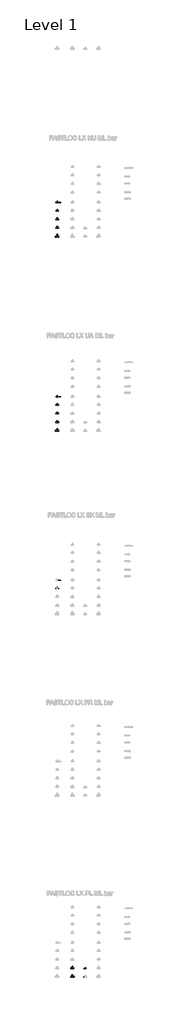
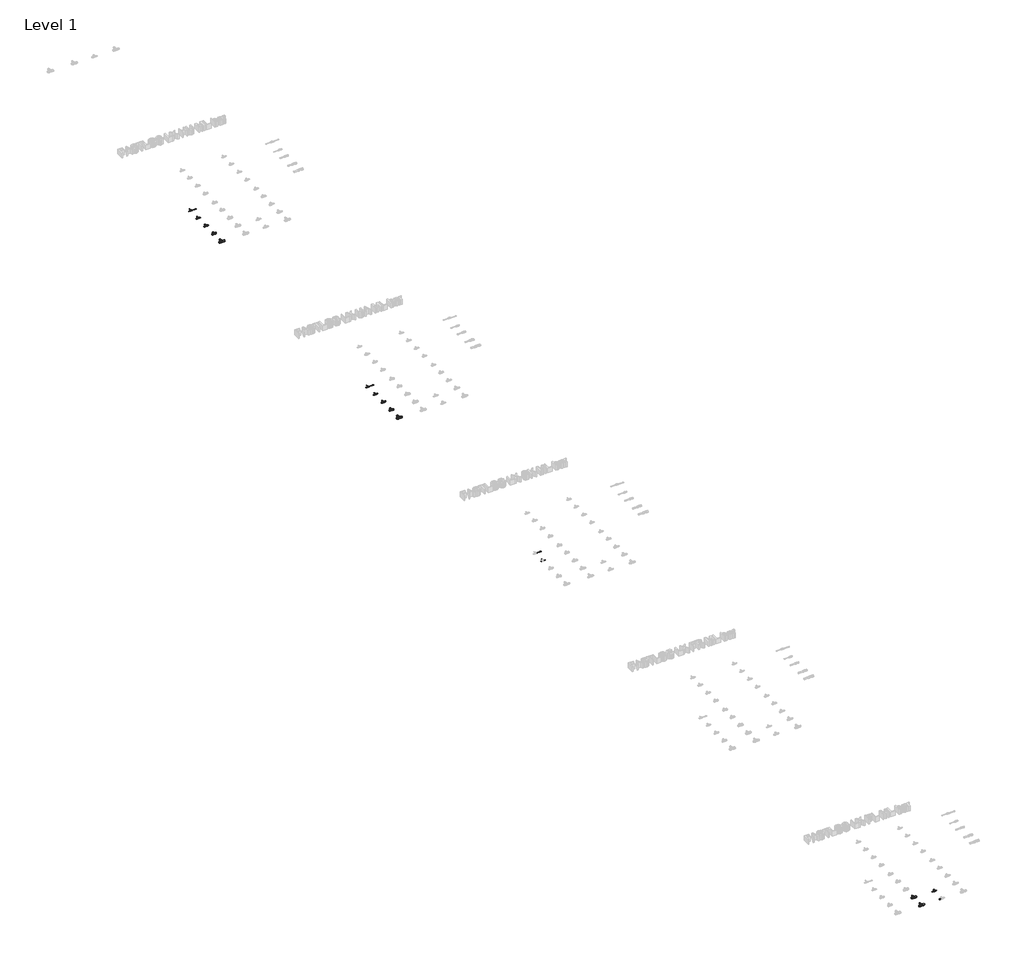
# One storey, part 2 of 78: 42 pipe segments, 13 pipe fittings.
"""IFC4 building model written with IfcOpenShell, lengths in millimetres."""

from ifc_helpers import new_model, si_unit, point, frame, frame_2d, origin, place, context, project, spatial, circle_curve, trimmed, segment, composite_curve, outline, extrude, transform, mapped, element, save
from components import pipe_fitting_d1609a9c, pipe_fitting_bded02bd, pipe_fitting_da5243fc, pipe_fitting_29102c59, pipe_fitting_564e9d2e, pipe_fitting_15165f03, pipe_fitting_7e3be5b8, pipe_fitting_19df1a9e

model = new_model("IFC4")

# Units and contexts
model_context = context("Model", 3, world=origin())
ifc_project = project(units=[si_unit("LENGTHUNIT", "METRE", prefix="MILLI")], contexts=[model_context])

# Site, building, storey
site = spatial("IfcSite", under=ifc_project)
building = spatial("IfcBuilding", under=site)
storey = spatial("IfcBuildingStorey", under=building, Name="Level 1", Elevation=0.0)

# Pipe fittings
placement = place(None, origin())
pipe_fitting_shape = pipe_fitting_d1609a9c(model_context)
element("IfcPipeFitting", 1, ObjectType="FASTLOC_T-piece_LX : FSL T-Piece LX HU", at=placement, inside=storey, context=model_context, shape_type="MappedRepresentation", body=[
    mapped(pipe_fitting_shape, transform((-273.2501928, -2880.2405791, 0.0), x_axis=(1.0, 0.0, 0.0), y_axis=(0.0, 1.0, 0.0), z_axis=(0.0, 0.0, 1.0))),
])
element("IfcPipeFitting", 2, ObjectType="FASTLOC_T-piece_LX : FSL T-Piece LX UA", at=placement, inside=storey, context=model_context, shape_type="MappedRepresentation", body=[
    mapped(pipe_fitting_shape, transform((-273.2501928, -11880.2405791, 0.0), x_axis=(1.0, 0.0, 0.0), y_axis=(0.0, 1.0, 0.0), z_axis=(0.0, 0.0, 1.0))),
])
pipe_fitting_2_shape = pipe_fitting_bded02bd(model_context)
element("IfcPipeFitting", 3, ObjectType="FASTLOC_T-piece_LX : FSL T-Piece LX HU", at=placement, inside=storey, context=model_context, shape_type="MappedRepresentation", body=[
    mapped(pipe_fitting_2_shape, transform((-273.2501928, -3260.2405791, 0.0), x_axis=(1.0, 0.0, 0.0), y_axis=(0.0, 1.0, 0.0), z_axis=(0.0, 0.0, 1.0))),
])
pipe_fitting_3_shape = pipe_fitting_da5243fc(model_context)
element("IfcPipeFitting", 4, ObjectType="FASTLOC_T-piece_LX : FSL T-Piece LX HU", at=placement, inside=storey, context=model_context, shape_type="MappedRepresentation", body=[
    mapped(pipe_fitting_3_shape, transform((-273.2501928, -3660.2405791, 0.0), x_axis=(1.0, 0.0, 0.0), y_axis=(0.0, 1.0, 0.0), z_axis=(0.0, 0.0, 1.0))),
])
pipe_fitting_4_shape = pipe_fitting_29102c59(model_context)
element("IfcPipeFitting", 5, ObjectType="FASTLOC_T-piece_LX : FSL T-Piece LX HU", at=placement, inside=storey, context=model_context, shape_type="MappedRepresentation", body=[
    mapped(pipe_fitting_4_shape, transform((-273.2501928, -4060.2405791, 0.0), x_axis=(1.0, 0.0, 0.0), y_axis=(0.0, 1.0, 0.0), z_axis=(0.0, 0.0, 1.0))),
])
pipe_fitting_5_shape = pipe_fitting_564e9d2e(model_context)
element("IfcPipeFitting", 6, ObjectType="FASTLOC_T-piece_LX : FSL T-Piece LX HU", at=placement, inside=storey, context=model_context, shape_type="MappedRepresentation", body=[
    mapped(pipe_fitting_5_shape, transform((-273.2501928, -4460.2405791, 0.0), x_axis=(1.0, 0.0, 0.0), y_axis=(0.0, 1.0, 0.0), z_axis=(0.0, 0.0, 1.0))),
])
element("IfcPipeFitting", 7, ObjectType="FASTLOC_T-piece_LX : FSL T-Piece LX UA", at=placement, inside=storey, context=model_context, shape_type="MappedRepresentation", body=[
    mapped(pipe_fitting_2_shape, transform((-273.2501928, -12260.2405791, 0.0), x_axis=(1.0, 0.0, 0.0), y_axis=(0.0, 1.0, 0.0), z_axis=(0.0, 0.0, 1.0))),
])
element("IfcPipeFitting", 8, ObjectType="FASTLOC_T-piece_LX : FSL T-Piece LX UA", at=placement, inside=storey, context=model_context, shape_type="MappedRepresentation", body=[
    mapped(pipe_fitting_3_shape, transform((-273.2501928, -12660.2405791, 0.0), x_axis=(1.0, 0.0, 0.0), y_axis=(0.0, 1.0, 0.0), z_axis=(0.0, 0.0, 1.0))),
])
element("IfcPipeFitting", 9, ObjectType="FASTLOC_T-piece_LX : FSL T-Piece LX UA", at=placement, inside=storey, context=model_context, shape_type="MappedRepresentation", body=[
    mapped(pipe_fitting_4_shape, transform((-273.2501928, -13060.2405791, 0.0), x_axis=(1.0, 0.0, 0.0), y_axis=(0.0, 1.0, 0.0), z_axis=(0.0, 0.0, 1.0))),
])
element("IfcPipeFitting", 10, ObjectType="FASTLOC_T-piece_LX : FSL T-Piece LX UA", at=placement, inside=storey, context=model_context, shape_type="MappedRepresentation", body=[
    mapped(pipe_fitting_5_shape, transform((-273.2501928, -13460.2405791, 0.0), x_axis=(1.0, 0.0, 0.0), y_axis=(0.0, 1.0, 0.0), z_axis=(0.0, 0.0, 1.0))),
])
pipe_fitting_6_shape = pipe_fitting_15165f03(model_context)
element("IfcPipeFitting", 11, ObjectType="FASTLOC_T-piece_LX : FSL T-Piece LX PL", at=placement, inside=storey, context=model_context, shape_type="MappedRepresentation", body=[
    mapped(pipe_fitting_6_shape, transform((426.7498072, -38360.2405791, 0.0), x_axis=(1.0, 0.0, 0.0), y_axis=(0.0, 1.0, 0.0), z_axis=(0.0, 0.0, 1.0))),
])
pipe_fitting_7_shape = pipe_fitting_7e3be5b8(model_context)
element("IfcPipeFitting", 12, ObjectType="FASTLOC_T-piece_LX : FSL T-Piece LX PL", at=placement, inside=storey, context=model_context, shape_type="MappedRepresentation", body=[
    mapped(pipe_fitting_7_shape, transform((426.7498072, -38760.2405791, 0.0), x_axis=(1.0, 0.0, 0.0), y_axis=(0.0, 1.0, 0.0), z_axis=(0.0, 0.0, 1.0))),
])
pipe_fitting_8_shape = pipe_fitting_19df1a9e(model_context)
element("IfcPipeFitting", 13, ObjectType="FASTLOC_T-piece_LX : FSL T-Piece LX PL", at=placement, inside=storey, context=model_context, shape_type="MappedRepresentation", body=[
    mapped(pipe_fitting_8_shape, transform((1026.7498072, -38380.2405791, 0.0), x_axis=(1.0, 0.0, 0.0), y_axis=(0.0, 1.0, 0.0), z_axis=(0.0, 0.0, 1.0))),
])

# Pipe segments
element("IfcPipeSegment", 14, ObjectType="FASTLOC LX ML HU bar", at=placement, inside=storey, context=model_context, shape_type="SweptSolid", body=[
    extrude(outline(composite_curve([segment(trimmed(circle_curve(frame_2d((-2880.2405791, 0.0)), 8.0), [point((-2872.2405791, 0.0))], [point((-2880.2405791, -8.0))], False, "CARTESIAN"), True, "CONTINUOUS"), segment(trimmed(circle_curve(frame_2d((-2880.2405791, 0.0)), 8.0), [point((-2880.2405791, -8.0))], [point((-2888.2405791, 0.0))], False, "CARTESIAN"), True, "CONTINUOUS"), segment(trimmed(circle_curve(frame_2d((-2880.2405791, 0.0)), 8.0), [point((-2888.2405791, 0.0))], [point((-2880.2405791, 8.0))], False, "CARTESIAN"), True, "CONTINUOUS"), segment(trimmed(circle_curve(frame_2d((-2880.2405791, 0.0)), 8.0), [point((-2880.2405791, 8.0))], [point((-2872.2405791, 0.0))], False, "CARTESIAN"), True, "CONTINUOUS")], self_intersect=False)), frame((-335.2501928, 0.0, 0.0), z_axis=(1.0, 0.0, 0.0), x_axis=(0.0, 1.0, 0.0)), (0.0, 0.0, 1.0), 47.0),
])
element("IfcPipeSegment", 15, ObjectType="FASTLOC LX ML HU bar", at=placement, inside=storey, context=model_context, shape_type="SweptSolid", body=[
    extrude(outline(composite_curve([segment(trimmed(circle_curve(frame_2d((0.0, -273.2501928)), 8.0), [point((0.0, -265.2501928))], [point((8.0, -273.2501928))], False, "CARTESIAN"), True, "CONTINUOUS"), segment(trimmed(circle_curve(frame_2d((0.0, -273.2501928)), 8.0), [point((8.0, -273.2501928))], [point((0.0, -281.2501928))], False, "CARTESIAN"), True, "CONTINUOUS"), segment(trimmed(circle_curve(frame_2d((0.0, -273.2501928)), 8.0), [point((0.0, -281.2501928))], [point((-8.0, -273.2501928))], False, "CARTESIAN"), True, "CONTINUOUS"), segment(trimmed(circle_curve(frame_2d((0.0, -273.2501928)), 8.0), [point((-8.0, -273.2501928))], [point((0.0, -265.2501928))], False, "CARTESIAN"), True, "CONTINUOUS")], self_intersect=False)), frame((0.0, -2858.1405791, 0.0), z_axis=(0.0, 1.0, 0.0), x_axis=(0.0, 0.0, 1.0)), (0.0, 0.0, 1.0), 50.2),
])
element("IfcPipeSegment", 16, ObjectType="FASTLOC LX ML HU bar", at=placement, inside=storey, context=model_context, shape_type="SweptSolid", body=[
    extrude(outline(composite_curve([segment(trimmed(circle_curve(frame_2d((-3260.2405791, 0.0)), 8.0), [point((-3268.2405791, 0.0))], [point((-3260.2405791, 8.0))], False, "CARTESIAN"), True, "CONTINUOUS"), segment(trimmed(circle_curve(frame_2d((-3260.2405791, 0.0)), 8.0), [point((-3260.2405791, 8.0))], [point((-3252.2405791, 0.0))], False, "CARTESIAN"), True, "CONTINUOUS"), segment(trimmed(circle_curve(frame_2d((-3260.2405791, 0.0)), 8.0), [point((-3252.2405791, 0.0))], [point((-3260.2405791, -8.0))], False, "CARTESIAN"), True, "CONTINUOUS"), segment(trimmed(circle_curve(frame_2d((-3260.2405791, 0.0)), 8.0), [point((-3260.2405791, -8.0))], [point((-3268.2405791, 0.0))], False, "CARTESIAN"), True, "CONTINUOUS")], self_intersect=False)), frame((-256.0501928, 0.0, 0.0), z_axis=(1.0, 0.0, 0.0), x_axis=(0.0, 1.0, 0.0)), (0.0, 0.0, 1.0), 44.8),
])
element("IfcPipeSegment", 17, ObjectType="FASTLOC LX ML HU bar", at=placement, inside=storey, context=model_context, shape_type="SweptSolid", body=[
    extrude(outline(composite_curve([segment(trimmed(circle_curve(frame_2d((-3260.2405791, 0.0)), 8.0), [point((-3252.2405791, 0.0))], [point((-3260.2405791, -8.0))], False, "CARTESIAN"), True, "CONTINUOUS"), segment(trimmed(circle_curve(frame_2d((-3260.2405791, 0.0)), 8.0), [point((-3260.2405791, -8.0))], [point((-3268.2405791, 0.0))], False, "CARTESIAN"), True, "CONTINUOUS"), segment(trimmed(circle_curve(frame_2d((-3260.2405791, 0.0)), 8.0), [point((-3268.2405791, 0.0))], [point((-3260.2405791, 8.0))], False, "CARTESIAN"), True, "CONTINUOUS"), segment(trimmed(circle_curve(frame_2d((-3260.2405791, 0.0)), 8.0), [point((-3260.2405791, 8.0))], [point((-3252.2405791, 0.0))], False, "CARTESIAN"), True, "CONTINUOUS")], self_intersect=False)), frame((-335.2501928, 0.0, 0.0), z_axis=(1.0, 0.0, 0.0), x_axis=(0.0, 1.0, 0.0)), (0.0, 0.0, 1.0), 44.8),
])
element("IfcPipeSegment", 18, ObjectType="FASTLOC LX ML HU bar", at=placement, inside=storey, context=model_context, shape_type="SweptSolid", body=[
    extrude(outline(composite_curve([segment(trimmed(circle_curve(frame_2d((0.0, -273.2501928)), 8.0), [point((0.0, -265.2501928))], [point((8.0, -273.2501928))], False, "CARTESIAN"), True, "CONTINUOUS"), segment(trimmed(circle_curve(frame_2d((0.0, -273.2501928)), 8.0), [point((8.0, -273.2501928))], [point((0.0, -281.2501928))], False, "CARTESIAN"), True, "CONTINUOUS"), segment(trimmed(circle_curve(frame_2d((0.0, -273.2501928)), 8.0), [point((0.0, -281.2501928))], [point((-8.0, -273.2501928))], False, "CARTESIAN"), True, "CONTINUOUS"), segment(trimmed(circle_curve(frame_2d((0.0, -273.2501928)), 8.0), [point((-8.0, -273.2501928))], [point((0.0, -265.2501928))], False, "CARTESIAN"), True, "CONTINUOUS")], self_intersect=False)), frame((0.0, -3233.8405791, 0.0), z_axis=(0.0, 1.0, 0.0), x_axis=(0.0, 0.0, 1.0)), (0.0, 0.0, 1.0), 45.9),
])
element("IfcPipeSegment", 19, ObjectType="FASTLOC LX ML HU bar", at=placement, inside=storey, context=model_context, shape_type="SweptSolid", body=[
    extrude(outline(composite_curve([segment(trimmed(circle_curve(frame_2d((-3660.2405791, 0.0)), 12.5), [point((-3672.7405791, 0.0))], [point((-3660.2405791, 12.5))], False, "CARTESIAN"), True, "CONTINUOUS"), segment(trimmed(circle_curve(frame_2d((-3660.2405791, 0.0)), 12.5), [point((-3660.2405791, 12.5))], [point((-3647.7405791, 0.0))], False, "CARTESIAN"), True, "CONTINUOUS"), segment(trimmed(circle_curve(frame_2d((-3660.2405791, 0.0)), 12.5), [point((-3647.7405791, 0.0))], [point((-3660.2405791, -12.5))], False, "CARTESIAN"), True, "CONTINUOUS"), segment(trimmed(circle_curve(frame_2d((-3660.2405791, 0.0)), 12.5), [point((-3660.2405791, -12.5))], [point((-3672.7405791, 0.0))], False, "CARTESIAN"), True, "CONTINUOUS")], self_intersect=False)), frame((-253.3501928, 0.0, 0.0), z_axis=(1.0, 0.0, 0.0), x_axis=(0.0, 1.0, 0.0)), (0.0, 0.0, 1.0), 42.1),
])
element("IfcPipeSegment", 20, ObjectType="FASTLOC LX ML HU bar", at=placement, inside=storey, context=model_context, shape_type="SweptSolid", body=[
    extrude(outline(composite_curve([segment(trimmed(circle_curve(frame_2d((-3660.2405791, 0.0)), 12.5), [point((-3647.7405791, 0.0))], [point((-3660.2405791, -12.5))], False, "CARTESIAN"), True, "CONTINUOUS"), segment(trimmed(circle_curve(frame_2d((-3660.2405791, 0.0)), 12.5), [point((-3660.2405791, -12.5))], [point((-3672.7405791, 0.0))], False, "CARTESIAN"), True, "CONTINUOUS"), segment(trimmed(circle_curve(frame_2d((-3660.2405791, 0.0)), 12.5), [point((-3672.7405791, 0.0))], [point((-3660.2405791, 12.5))], False, "CARTESIAN"), True, "CONTINUOUS"), segment(trimmed(circle_curve(frame_2d((-3660.2405791, 0.0)), 12.5), [point((-3660.2405791, 12.5))], [point((-3647.7405791, 0.0))], False, "CARTESIAN"), True, "CONTINUOUS")], self_intersect=False)), frame((-335.2501928, 0.0, 0.0), z_axis=(1.0, 0.0, 0.0), x_axis=(0.0, 1.0, 0.0)), (0.0, 0.0, 1.0), 42.1),
])
element("IfcPipeSegment", 21, ObjectType="FASTLOC LX ML HU bar", at=placement, inside=storey, context=model_context, shape_type="SweptSolid", body=[
    extrude(outline(composite_curve([segment(trimmed(circle_curve(frame_2d((0.0, -273.2501928)), 12.5), [point((0.0, -260.7501928))], [point((12.5, -273.2501928))], False, "CARTESIAN"), True, "CONTINUOUS"), segment(trimmed(circle_curve(frame_2d((0.0, -273.2501928)), 12.5), [point((12.5, -273.2501928))], [point((0.0, -285.7501928))], False, "CARTESIAN"), True, "CONTINUOUS"), segment(trimmed(circle_curve(frame_2d((0.0, -273.2501928)), 12.5), [point((0.0, -285.7501928))], [point((-12.5, -273.2501928))], False, "CARTESIAN"), True, "CONTINUOUS"), segment(trimmed(circle_curve(frame_2d((0.0, -273.2501928)), 12.5), [point((-12.5, -273.2501928))], [point((0.0, -260.7501928))], False, "CARTESIAN"), True, "CONTINUOUS")], self_intersect=False)), frame((0.0, -3630.7405791, 0.0), z_axis=(0.0, 1.0, 0.0), x_axis=(0.0, 0.0, 1.0)), (0.0, 0.0, 1.0), 42.8),
])
element("IfcPipeSegment", 22, ObjectType="FASTLOC LX ML HU bar", at=placement, inside=storey, context=model_context, shape_type="SweptSolid", body=[
    extrude(outline(composite_curve([segment(trimmed(circle_curve(frame_2d((-4060.2405791, 0.0)), 16.0), [point((-4076.2405791, 0.0))], [point((-4060.2405791, 16.0))], False, "CARTESIAN"), True, "CONTINUOUS"), segment(trimmed(circle_curve(frame_2d((-4060.2405791, 0.0)), 16.0), [point((-4060.2405791, 16.0))], [point((-4044.2405791, 0.0))], False, "CARTESIAN"), True, "CONTINUOUS"), segment(trimmed(circle_curve(frame_2d((-4060.2405791, 0.0)), 16.0), [point((-4044.2405791, 0.0))], [point((-4060.2405791, -16.0))], False, "CARTESIAN"), True, "CONTINUOUS"), segment(trimmed(circle_curve(frame_2d((-4060.2405791, 0.0)), 16.0), [point((-4060.2405791, -16.0))], [point((-4076.2405791, 0.0))], False, "CARTESIAN"), True, "CONTINUOUS")], self_intersect=False)), frame((-248.4501928, 0.0, 0.0), z_axis=(1.0, 0.0, 0.0), x_axis=(0.0, 1.0, 0.0)), (0.0, 0.0, 1.0), 37.2),
])
element("IfcPipeSegment", 23, ObjectType="FASTLOC LX ML HU bar", at=placement, inside=storey, context=model_context, shape_type="SweptSolid", body=[
    extrude(outline(composite_curve([segment(trimmed(circle_curve(frame_2d((-4060.2405791, 0.0)), 16.0), [point((-4044.2405791, 0.0))], [point((-4060.2405791, -16.0))], False, "CARTESIAN"), True, "CONTINUOUS"), segment(trimmed(circle_curve(frame_2d((-4060.2405791, 0.0)), 16.0), [point((-4060.2405791, -16.0))], [point((-4076.2405791, 0.0))], False, "CARTESIAN"), True, "CONTINUOUS"), segment(trimmed(circle_curve(frame_2d((-4060.2405791, 0.0)), 16.0), [point((-4076.2405791, 0.0))], [point((-4060.2405791, 16.0))], False, "CARTESIAN"), True, "CONTINUOUS"), segment(trimmed(circle_curve(frame_2d((-4060.2405791, 0.0)), 16.0), [point((-4060.2405791, 16.0))], [point((-4044.2405791, 0.0))], False, "CARTESIAN"), True, "CONTINUOUS")], self_intersect=False)), frame((-335.2501928, 0.0, 0.0), z_axis=(1.0, 0.0, 0.0), x_axis=(0.0, 1.0, 0.0)), (0.0, 0.0, 1.0), 37.2),
])
element("IfcPipeSegment", 24, ObjectType="FASTLOC LX ML HU bar", at=placement, inside=storey, context=model_context, shape_type="SweptSolid", body=[
    extrude(outline(composite_curve([segment(trimmed(circle_curve(frame_2d((0.0, -273.2501928)), 16.0), [point((0.0, -257.2501928))], [point((16.0, -273.2501928))], False, "CARTESIAN"), True, "CONTINUOUS"), segment(trimmed(circle_curve(frame_2d((0.0, -273.2501928)), 16.0), [point((16.0, -273.2501928))], [point((0.0, -289.2501928))], False, "CARTESIAN"), True, "CONTINUOUS"), segment(trimmed(circle_curve(frame_2d((0.0, -273.2501928)), 16.0), [point((0.0, -289.2501928))], [point((-16.0, -273.2501928))], False, "CARTESIAN"), True, "CONTINUOUS"), segment(trimmed(circle_curve(frame_2d((0.0, -273.2501928)), 16.0), [point((-16.0, -273.2501928))], [point((0.0, -257.2501928))], False, "CARTESIAN"), True, "CONTINUOUS")], self_intersect=False)), frame((0.0, -4024.1405791, 0.0), z_axis=(0.0, 1.0, 0.0), x_axis=(0.0, 0.0, 1.0)), (0.0, 0.0, 1.0), 36.2),
])
element("IfcPipeSegment", 25, ObjectType="FASTLOC LX ML HU bar", at=placement, inside=storey, context=model_context, shape_type="SweptSolid", body=[
    extrude(outline(composite_curve([segment(trimmed(circle_curve(frame_2d((-4460.2405791, 0.0)), 20.0), [point((-4480.2405791, 0.0))], [point((-4460.2405791, 20.0))], False, "CARTESIAN"), True, "CONTINUOUS"), segment(trimmed(circle_curve(frame_2d((-4460.2405791, 0.0)), 20.0), [point((-4460.2405791, 20.0))], [point((-4440.2405791, 0.0))], False, "CARTESIAN"), True, "CONTINUOUS"), segment(trimmed(circle_curve(frame_2d((-4460.2405791, 0.0)), 20.0), [point((-4440.2405791, 0.0))], [point((-4460.2405791, -20.0))], False, "CARTESIAN"), True, "CONTINUOUS"), segment(trimmed(circle_curve(frame_2d((-4460.2405791, 0.0)), 20.0), [point((-4460.2405791, -20.0))], [point((-4480.2405791, 0.0))], False, "CARTESIAN"), True, "CONTINUOUS")], self_intersect=False)), frame((-241.8501928, 0.0, 0.0), z_axis=(1.0, 0.0, 0.0), x_axis=(0.0, 1.0, 0.0)), (0.0, 0.0, 1.0), 50.0),
])
element("IfcPipeSegment", 26, ObjectType="FASTLOC LX ML HU bar", at=placement, inside=storey, context=model_context, shape_type="SweptSolid", body=[
    extrude(outline(composite_curve([segment(trimmed(circle_curve(frame_2d((-4460.2405791, 0.0)), 20.0), [point((-4440.2405791, 0.0))], [point((-4460.2405791, -20.0))], False, "CARTESIAN"), True, "CONTINUOUS"), segment(trimmed(circle_curve(frame_2d((-4460.2405791, 0.0)), 20.0), [point((-4460.2405791, -20.0))], [point((-4480.2405791, 0.0))], False, "CARTESIAN"), True, "CONTINUOUS"), segment(trimmed(circle_curve(frame_2d((-4460.2405791, 0.0)), 20.0), [point((-4480.2405791, 0.0))], [point((-4460.2405791, 20.0))], False, "CARTESIAN"), True, "CONTINUOUS"), segment(trimmed(circle_curve(frame_2d((-4460.2405791, 0.0)), 20.0), [point((-4460.2405791, 20.0))], [point((-4440.2405791, 0.0))], False, "CARTESIAN"), True, "CONTINUOUS")], self_intersect=False)), frame((-354.6501928, 0.0, 0.0), z_axis=(1.0, 0.0, 0.0), x_axis=(0.0, 1.0, 0.0)), (0.0, 0.0, 1.0), 50.0),
])
element("IfcPipeSegment", 27, ObjectType="FASTLOC LX ML HU bar", at=placement, inside=storey, context=model_context, shape_type="SweptSolid", body=[
    extrude(outline(composite_curve([segment(trimmed(circle_curve(frame_2d((0.0, -273.2501928)), 20.0), [point((0.0, -253.2501928))], [point((20.0, -273.2501928))], False, "CARTESIAN"), True, "CONTINUOUS"), segment(trimmed(circle_curve(frame_2d((0.0, -273.2501928)), 20.0), [point((20.0, -273.2501928))], [point((0.0, -293.2501928))], False, "CARTESIAN"), True, "CONTINUOUS"), segment(trimmed(circle_curve(frame_2d((0.0, -273.2501928)), 20.0), [point((0.0, -293.2501928))], [point((-20.0, -273.2501928))], False, "CARTESIAN"), True, "CONTINUOUS"), segment(trimmed(circle_curve(frame_2d((0.0, -273.2501928)), 20.0), [point((-20.0, -273.2501928))], [point((0.0, -253.2501928))], False, "CARTESIAN"), True, "CONTINUOUS")], self_intersect=False)), frame((0.0, -4415.5405791, 0.0), z_axis=(0.0, 1.0, 0.0), x_axis=(0.0, 0.0, 1.0)), (0.0, 0.0, 1.0), 62.9),
])
element("IfcPipeSegment", 28, ObjectType="FASTLOC LX ML UA bar", at=placement, inside=storey, context=model_context, shape_type="SweptSolid", body=[
    extrude(outline(composite_curve([segment(trimmed(circle_curve(frame_2d((-11880.2405791, 0.0)), 8.0), [point((-11872.2405791, 0.0))], [point((-11880.2405791, -8.0))], False, "CARTESIAN"), True, "CONTINUOUS"), segment(trimmed(circle_curve(frame_2d((-11880.2405791, 0.0)), 8.0), [point((-11880.2405791, -8.0))], [point((-11888.2405791, 0.0))], False, "CARTESIAN"), True, "CONTINUOUS"), segment(trimmed(circle_curve(frame_2d((-11880.2405791, 0.0)), 8.0), [point((-11888.2405791, 0.0))], [point((-11880.2405791, 8.0))], False, "CARTESIAN"), True, "CONTINUOUS"), segment(trimmed(circle_curve(frame_2d((-11880.2405791, 0.0)), 8.0), [point((-11880.2405791, 8.0))], [point((-11872.2405791, 0.0))], False, "CARTESIAN"), True, "CONTINUOUS")], self_intersect=False)), frame((-335.2501928, 0.0, 0.0), z_axis=(1.0, 0.0, 0.0), x_axis=(0.0, 1.0, 0.0)), (0.0, 0.0, 1.0), 47.0),
])
element("IfcPipeSegment", 29, ObjectType="FASTLOC LX ML UA bar", at=placement, inside=storey, context=model_context, shape_type="SweptSolid", body=[
    extrude(outline(composite_curve([segment(trimmed(circle_curve(frame_2d((0.0, -273.2501928)), 8.0), [point((0.0, -265.2501928))], [point((8.0, -273.2501928))], False, "CARTESIAN"), True, "CONTINUOUS"), segment(trimmed(circle_curve(frame_2d((0.0, -273.2501928)), 8.0), [point((8.0, -273.2501928))], [point((0.0, -281.2501928))], False, "CARTESIAN"), True, "CONTINUOUS"), segment(trimmed(circle_curve(frame_2d((0.0, -273.2501928)), 8.0), [point((0.0, -281.2501928))], [point((-8.0, -273.2501928))], False, "CARTESIAN"), True, "CONTINUOUS"), segment(trimmed(circle_curve(frame_2d((0.0, -273.2501928)), 8.0), [point((-8.0, -273.2501928))], [point((0.0, -265.2501928))], False, "CARTESIAN"), True, "CONTINUOUS")], self_intersect=False)), frame((0.0, -11858.1405791, 0.0), z_axis=(0.0, 1.0, 0.0), x_axis=(0.0, 0.0, 1.0)), (0.0, 0.0, 1.0), 50.2),
])
element("IfcPipeSegment", 30, ObjectType="FASTLOC LX ML UA bar", at=placement, inside=storey, context=model_context, shape_type="SweptSolid", body=[
    extrude(outline(composite_curve([segment(trimmed(circle_curve(frame_2d((-12260.2405791, 0.0)), 8.0), [point((-12268.2405791, 0.0))], [point((-12260.2405791, 8.0))], False, "CARTESIAN"), True, "CONTINUOUS"), segment(trimmed(circle_curve(frame_2d((-12260.2405791, 0.0)), 8.0), [point((-12260.2405791, 8.0))], [point((-12252.2405791, 0.0))], False, "CARTESIAN"), True, "CONTINUOUS"), segment(trimmed(circle_curve(frame_2d((-12260.2405791, 0.0)), 8.0), [point((-12252.2405791, 0.0))], [point((-12260.2405791, -8.0))], False, "CARTESIAN"), True, "CONTINUOUS"), segment(trimmed(circle_curve(frame_2d((-12260.2405791, 0.0)), 8.0), [point((-12260.2405791, -8.0))], [point((-12268.2405791, 0.0))], False, "CARTESIAN"), True, "CONTINUOUS")], self_intersect=False)), frame((-256.0501928, 0.0, 0.0), z_axis=(1.0, 0.0, 0.0), x_axis=(0.0, 1.0, 0.0)), (0.0, 0.0, 1.0), 44.8),
])
element("IfcPipeSegment", 31, ObjectType="FASTLOC LX ML UA bar", at=placement, inside=storey, context=model_context, shape_type="SweptSolid", body=[
    extrude(outline(composite_curve([segment(trimmed(circle_curve(frame_2d((-12260.2405791, 0.0)), 8.0), [point((-12252.2405791, 0.0))], [point((-12260.2405791, -8.0))], False, "CARTESIAN"), True, "CONTINUOUS"), segment(trimmed(circle_curve(frame_2d((-12260.2405791, 0.0)), 8.0), [point((-12260.2405791, -8.0))], [point((-12268.2405791, 0.0))], False, "CARTESIAN"), True, "CONTINUOUS"), segment(trimmed(circle_curve(frame_2d((-12260.2405791, 0.0)), 8.0), [point((-12268.2405791, 0.0))], [point((-12260.2405791, 8.0))], False, "CARTESIAN"), True, "CONTINUOUS"), segment(trimmed(circle_curve(frame_2d((-12260.2405791, 0.0)), 8.0), [point((-12260.2405791, 8.0))], [point((-12252.2405791, 0.0))], False, "CARTESIAN"), True, "CONTINUOUS")], self_intersect=False)), frame((-335.2501928, 0.0, 0.0), z_axis=(1.0, 0.0, 0.0), x_axis=(0.0, 1.0, 0.0)), (0.0, 0.0, 1.0), 44.8),
])
element("IfcPipeSegment", 32, ObjectType="FASTLOC LX ML UA bar", at=placement, inside=storey, context=model_context, shape_type="SweptSolid", body=[
    extrude(outline(composite_curve([segment(trimmed(circle_curve(frame_2d((0.0, -273.2501928)), 8.0), [point((0.0, -265.2501928))], [point((8.0, -273.2501928))], False, "CARTESIAN"), True, "CONTINUOUS"), segment(trimmed(circle_curve(frame_2d((0.0, -273.2501928)), 8.0), [point((8.0, -273.2501928))], [point((0.0, -281.2501928))], False, "CARTESIAN"), True, "CONTINUOUS"), segment(trimmed(circle_curve(frame_2d((0.0, -273.2501928)), 8.0), [point((0.0, -281.2501928))], [point((-8.0, -273.2501928))], False, "CARTESIAN"), True, "CONTINUOUS"), segment(trimmed(circle_curve(frame_2d((0.0, -273.2501928)), 8.0), [point((-8.0, -273.2501928))], [point((0.0, -265.2501928))], False, "CARTESIAN"), True, "CONTINUOUS")], self_intersect=False)), frame((0.0, -12233.8405791, 0.0), z_axis=(0.0, 1.0, 0.0), x_axis=(0.0, 0.0, 1.0)), (0.0, 0.0, 1.0), 45.9),
])
element("IfcPipeSegment", 33, ObjectType="FASTLOC LX ML UA bar", at=placement, inside=storey, context=model_context, shape_type="SweptSolid", body=[
    extrude(outline(composite_curve([segment(trimmed(circle_curve(frame_2d((-12660.2405791, 0.0)), 12.5), [point((-12672.7405791, 0.0))], [point((-12660.2405791, 12.5))], False, "CARTESIAN"), True, "CONTINUOUS"), segment(trimmed(circle_curve(frame_2d((-12660.2405791, 0.0)), 12.5), [point((-12660.2405791, 12.5))], [point((-12647.7405791, 0.0))], False, "CARTESIAN"), True, "CONTINUOUS"), segment(trimmed(circle_curve(frame_2d((-12660.2405791, 0.0)), 12.5), [point((-12647.7405791, 0.0))], [point((-12660.2405791, -12.5))], False, "CARTESIAN"), True, "CONTINUOUS"), segment(trimmed(circle_curve(frame_2d((-12660.2405791, 0.0)), 12.5), [point((-12660.2405791, -12.5))], [point((-12672.7405791, 0.0))], False, "CARTESIAN"), True, "CONTINUOUS")], self_intersect=False)), frame((-253.3501928, 0.0, 0.0), z_axis=(1.0, 0.0, 0.0), x_axis=(0.0, 1.0, 0.0)), (0.0, 0.0, 1.0), 42.1),
])
element("IfcPipeSegment", 34, ObjectType="FASTLOC LX ML UA bar", at=placement, inside=storey, context=model_context, shape_type="SweptSolid", body=[
    extrude(outline(composite_curve([segment(trimmed(circle_curve(frame_2d((-12660.2405791, 0.0)), 12.5), [point((-12647.7405791, 0.0))], [point((-12660.2405791, -12.5))], False, "CARTESIAN"), True, "CONTINUOUS"), segment(trimmed(circle_curve(frame_2d((-12660.2405791, 0.0)), 12.5), [point((-12660.2405791, -12.5))], [point((-12672.7405791, 0.0))], False, "CARTESIAN"), True, "CONTINUOUS"), segment(trimmed(circle_curve(frame_2d((-12660.2405791, 0.0)), 12.5), [point((-12672.7405791, 0.0))], [point((-12660.2405791, 12.5))], False, "CARTESIAN"), True, "CONTINUOUS"), segment(trimmed(circle_curve(frame_2d((-12660.2405791, 0.0)), 12.5), [point((-12660.2405791, 12.5))], [point((-12647.7405791, 0.0))], False, "CARTESIAN"), True, "CONTINUOUS")], self_intersect=False)), frame((-335.2501928, 0.0, 0.0), z_axis=(1.0, 0.0, 0.0), x_axis=(0.0, 1.0, 0.0)), (0.0, 0.0, 1.0), 42.1),
])
element("IfcPipeSegment", 35, ObjectType="FASTLOC LX ML UA bar", at=placement, inside=storey, context=model_context, shape_type="SweptSolid", body=[
    extrude(outline(composite_curve([segment(trimmed(circle_curve(frame_2d((0.0, -273.2501928)), 12.5), [point((0.0, -260.7501928))], [point((12.5, -273.2501928))], False, "CARTESIAN"), True, "CONTINUOUS"), segment(trimmed(circle_curve(frame_2d((0.0, -273.2501928)), 12.5), [point((12.5, -273.2501928))], [point((0.0, -285.7501928))], False, "CARTESIAN"), True, "CONTINUOUS"), segment(trimmed(circle_curve(frame_2d((0.0, -273.2501928)), 12.5), [point((0.0, -285.7501928))], [point((-12.5, -273.2501928))], False, "CARTESIAN"), True, "CONTINUOUS"), segment(trimmed(circle_curve(frame_2d((0.0, -273.2501928)), 12.5), [point((-12.5, -273.2501928))], [point((0.0, -260.7501928))], False, "CARTESIAN"), True, "CONTINUOUS")], self_intersect=False)), frame((0.0, -12630.7405791, 0.0), z_axis=(0.0, 1.0, 0.0), x_axis=(0.0, 0.0, 1.0)), (0.0, 0.0, 1.0), 42.8),
])
element("IfcPipeSegment", 36, ObjectType="FASTLOC LX ML UA bar", at=placement, inside=storey, context=model_context, shape_type="SweptSolid", body=[
    extrude(outline(composite_curve([segment(trimmed(circle_curve(frame_2d((-13060.2405791, 0.0)), 16.0), [point((-13076.2405791, 0.0))], [point((-13060.2405791, 16.0))], False, "CARTESIAN"), True, "CONTINUOUS"), segment(trimmed(circle_curve(frame_2d((-13060.2405791, 0.0)), 16.0), [point((-13060.2405791, 16.0))], [point((-13044.2405791, 0.0))], False, "CARTESIAN"), True, "CONTINUOUS"), segment(trimmed(circle_curve(frame_2d((-13060.2405791, 0.0)), 16.0), [point((-13044.2405791, 0.0))], [point((-13060.2405791, -16.0))], False, "CARTESIAN"), True, "CONTINUOUS"), segment(trimmed(circle_curve(frame_2d((-13060.2405791, 0.0)), 16.0), [point((-13060.2405791, -16.0))], [point((-13076.2405791, 0.0))], False, "CARTESIAN"), True, "CONTINUOUS")], self_intersect=False)), frame((-248.4501928, 0.0, 0.0), z_axis=(1.0, 0.0, 0.0), x_axis=(0.0, 1.0, 0.0)), (0.0, 0.0, 1.0), 37.2),
])
element("IfcPipeSegment", 37, ObjectType="FASTLOC LX ML UA bar", at=placement, inside=storey, context=model_context, shape_type="SweptSolid", body=[
    extrude(outline(composite_curve([segment(trimmed(circle_curve(frame_2d((-13060.2405791, 0.0)), 16.0), [point((-13044.2405791, 0.0))], [point((-13060.2405791, -16.0))], False, "CARTESIAN"), True, "CONTINUOUS"), segment(trimmed(circle_curve(frame_2d((-13060.2405791, 0.0)), 16.0), [point((-13060.2405791, -16.0))], [point((-13076.2405791, 0.0))], False, "CARTESIAN"), True, "CONTINUOUS"), segment(trimmed(circle_curve(frame_2d((-13060.2405791, 0.0)), 16.0), [point((-13076.2405791, 0.0))], [point((-13060.2405791, 16.0))], False, "CARTESIAN"), True, "CONTINUOUS"), segment(trimmed(circle_curve(frame_2d((-13060.2405791, 0.0)), 16.0), [point((-13060.2405791, 16.0))], [point((-13044.2405791, 0.0))], False, "CARTESIAN"), True, "CONTINUOUS")], self_intersect=False)), frame((-335.2501928, 0.0, 0.0), z_axis=(1.0, 0.0, 0.0), x_axis=(0.0, 1.0, 0.0)), (0.0, 0.0, 1.0), 37.2),
])
element("IfcPipeSegment", 38, ObjectType="FASTLOC LX ML UA bar", at=placement, inside=storey, context=model_context, shape_type="SweptSolid", body=[
    extrude(outline(composite_curve([segment(trimmed(circle_curve(frame_2d((0.0, -273.2501928)), 16.0), [point((0.0, -257.2501928))], [point((16.0, -273.2501928))], False, "CARTESIAN"), True, "CONTINUOUS"), segment(trimmed(circle_curve(frame_2d((0.0, -273.2501928)), 16.0), [point((16.0, -273.2501928))], [point((0.0, -289.2501928))], False, "CARTESIAN"), True, "CONTINUOUS"), segment(trimmed(circle_curve(frame_2d((0.0, -273.2501928)), 16.0), [point((0.0, -289.2501928))], [point((-16.0, -273.2501928))], False, "CARTESIAN"), True, "CONTINUOUS"), segment(trimmed(circle_curve(frame_2d((0.0, -273.2501928)), 16.0), [point((-16.0, -273.2501928))], [point((0.0, -257.2501928))], False, "CARTESIAN"), True, "CONTINUOUS")], self_intersect=False)), frame((0.0, -13024.1405791, 0.0), z_axis=(0.0, 1.0, 0.0), x_axis=(0.0, 0.0, 1.0)), (0.0, 0.0, 1.0), 36.2),
])
element("IfcPipeSegment", 39, ObjectType="FASTLOC LX ML UA bar", at=placement, inside=storey, context=model_context, shape_type="SweptSolid", body=[
    extrude(outline(composite_curve([segment(trimmed(circle_curve(frame_2d((-13460.2405791, 0.0)), 20.0), [point((-13480.2405791, 0.0))], [point((-13460.2405791, 20.0))], False, "CARTESIAN"), True, "CONTINUOUS"), segment(trimmed(circle_curve(frame_2d((-13460.2405791, 0.0)), 20.0), [point((-13460.2405791, 20.0))], [point((-13440.2405791, 0.0))], False, "CARTESIAN"), True, "CONTINUOUS"), segment(trimmed(circle_curve(frame_2d((-13460.2405791, 0.0)), 20.0), [point((-13440.2405791, 0.0))], [point((-13460.2405791, -20.0))], False, "CARTESIAN"), True, "CONTINUOUS"), segment(trimmed(circle_curve(frame_2d((-13460.2405791, 0.0)), 20.0), [point((-13460.2405791, -20.0))], [point((-13480.2405791, 0.0))], False, "CARTESIAN"), True, "CONTINUOUS")], self_intersect=False)), frame((-241.8501928, 0.0, 0.0), z_axis=(1.0, 0.0, 0.0), x_axis=(0.0, 1.0, 0.0)), (0.0, 0.0, 1.0), 50.0),
])
element("IfcPipeSegment", 40, ObjectType="FASTLOC LX ML UA bar", at=placement, inside=storey, context=model_context, shape_type="SweptSolid", body=[
    extrude(outline(composite_curve([segment(trimmed(circle_curve(frame_2d((-13460.2405791, 0.0)), 20.0), [point((-13440.2405791, 0.0))], [point((-13460.2405791, -20.0))], False, "CARTESIAN"), True, "CONTINUOUS"), segment(trimmed(circle_curve(frame_2d((-13460.2405791, 0.0)), 20.0), [point((-13460.2405791, -20.0))], [point((-13480.2405791, 0.0))], False, "CARTESIAN"), True, "CONTINUOUS"), segment(trimmed(circle_curve(frame_2d((-13460.2405791, 0.0)), 20.0), [point((-13480.2405791, 0.0))], [point((-13460.2405791, 20.0))], False, "CARTESIAN"), True, "CONTINUOUS"), segment(trimmed(circle_curve(frame_2d((-13460.2405791, 0.0)), 20.0), [point((-13460.2405791, 20.0))], [point((-13440.2405791, 0.0))], False, "CARTESIAN"), True, "CONTINUOUS")], self_intersect=False)), frame((-354.6501928, 0.0, 0.0), z_axis=(1.0, 0.0, 0.0), x_axis=(0.0, 1.0, 0.0)), (0.0, 0.0, 1.0), 50.0),
])
element("IfcPipeSegment", 41, ObjectType="FASTLOC LX ML UA bar", at=placement, inside=storey, context=model_context, shape_type="SweptSolid", body=[
    extrude(outline(composite_curve([segment(trimmed(circle_curve(frame_2d((0.0, -273.2501928)), 20.0), [point((0.0, -253.2501928))], [point((20.0, -273.2501928))], False, "CARTESIAN"), True, "CONTINUOUS"), segment(trimmed(circle_curve(frame_2d((0.0, -273.2501928)), 20.0), [point((20.0, -273.2501928))], [point((0.0, -293.2501928))], False, "CARTESIAN"), True, "CONTINUOUS"), segment(trimmed(circle_curve(frame_2d((0.0, -273.2501928)), 20.0), [point((0.0, -293.2501928))], [point((-20.0, -273.2501928))], False, "CARTESIAN"), True, "CONTINUOUS"), segment(trimmed(circle_curve(frame_2d((0.0, -273.2501928)), 20.0), [point((-20.0, -273.2501928))], [point((0.0, -253.2501928))], False, "CARTESIAN"), True, "CONTINUOUS")], self_intersect=False)), frame((0.0, -13415.5405791, 0.0), z_axis=(0.0, 1.0, 0.0), x_axis=(0.0, 0.0, 1.0)), (0.0, 0.0, 1.0), 62.9),
])
element("IfcPipeSegment", 42, ObjectType="FASTLOC LX ML UA bar", at=placement, inside=storey, context=model_context, shape_type="SweptSolid", body=[
    extrude(outline(composite_curve([segment(trimmed(circle_curve(frame_2d((-11880.2405791, 0.0)), 8.0), [point((-11888.2405791, 0.0))], [point((-11880.2405791, 8.0))], False, "CARTESIAN"), True, "CONTINUOUS"), segment(trimmed(circle_curve(frame_2d((-11880.2405791, 0.0)), 8.0), [point((-11880.2405791, 8.0))], [point((-11872.2405791, 0.0))], False, "CARTESIAN"), True, "CONTINUOUS"), segment(trimmed(circle_curve(frame_2d((-11880.2405791, 0.0)), 8.0), [point((-11872.2405791, 0.0))], [point((-11880.2405791, -8.0))], False, "CARTESIAN"), True, "CONTINUOUS"), segment(trimmed(circle_curve(frame_2d((-11880.2405791, 0.0)), 8.0), [point((-11880.2405791, -8.0))], [point((-11888.2405791, 0.0))], False, "CARTESIAN"), True, "CONTINUOUS")], self_intersect=False)), frame((-258.2501928, 0.0, 0.0), z_axis=(1.0, 0.0, 0.0), x_axis=(0.0, 1.0, 0.0)), (0.0, 0.0, 1.0), 140.0),
])
element("IfcPipeSegment", 43, ObjectType="FASTLOC LX ML SK bar", at=placement, inside=storey, context=model_context, shape_type="SweptSolid", body=[
    extrude(outline(composite_curve([segment(trimmed(circle_curve(frame_2d((-20760.2405791, 0.0)), 8.0), [point((-20768.2405791, 0.0))], [point((-20760.2405791, 8.0))], False, "CARTESIAN"), True, "CONTINUOUS"), segment(trimmed(circle_curve(frame_2d((-20760.2405791, 0.0)), 8.0), [point((-20760.2405791, 8.0))], [point((-20752.2405791, 0.0))], False, "CARTESIAN"), True, "CONTINUOUS"), segment(trimmed(circle_curve(frame_2d((-20760.2405791, 0.0)), 8.0), [point((-20752.2405791, 0.0))], [point((-20760.2405791, -8.0))], False, "CARTESIAN"), True, "CONTINUOUS"), segment(trimmed(circle_curve(frame_2d((-20760.2405791, 0.0)), 8.0), [point((-20760.2405791, -8.0))], [point((-20768.2405791, 0.0))], False, "CARTESIAN"), True, "CONTINUOUS")], self_intersect=False)), frame((-256.0501928, 0.0, 0.0), z_axis=(1.0, 0.0, 0.0), x_axis=(0.0, 1.0, 0.0)), (0.0, 0.0, 1.0), 44.8),
])
element("IfcPipeSegment", 44, ObjectType="FASTLOC LX ML SK bar", at=placement, inside=storey, context=model_context, shape_type="SweptSolid", body=[
    extrude(outline(composite_curve([segment(trimmed(circle_curve(frame_2d((-20760.2405791, 0.0)), 8.0), [point((-20752.2405791, 0.0))], [point((-20760.2405791, -8.0))], False, "CARTESIAN"), True, "CONTINUOUS"), segment(trimmed(circle_curve(frame_2d((-20760.2405791, 0.0)), 8.0), [point((-20760.2405791, -8.0))], [point((-20768.2405791, 0.0))], False, "CARTESIAN"), True, "CONTINUOUS"), segment(trimmed(circle_curve(frame_2d((-20760.2405791, 0.0)), 8.0), [point((-20768.2405791, 0.0))], [point((-20760.2405791, 8.0))], False, "CARTESIAN"), True, "CONTINUOUS"), segment(trimmed(circle_curve(frame_2d((-20760.2405791, 0.0)), 8.0), [point((-20760.2405791, 8.0))], [point((-20752.2405791, 0.0))], False, "CARTESIAN"), True, "CONTINUOUS")], self_intersect=False)), frame((-335.2501928, 0.0, 0.0), z_axis=(1.0, 0.0, 0.0), x_axis=(0.0, 1.0, 0.0)), (0.0, 0.0, 1.0), 44.8),
])
element("IfcPipeSegment", 45, ObjectType="FASTLOC LX ML SK bar", at=placement, inside=storey, context=model_context, shape_type="SweptSolid", body=[
    extrude(outline(composite_curve([segment(trimmed(circle_curve(frame_2d((0.0, -273.2501928)), 8.0), [point((0.0, -265.2501928))], [point((8.0, -273.2501928))], False, "CARTESIAN"), True, "CONTINUOUS"), segment(trimmed(circle_curve(frame_2d((0.0, -273.2501928)), 8.0), [point((8.0, -273.2501928))], [point((0.0, -281.2501928))], False, "CARTESIAN"), True, "CONTINUOUS"), segment(trimmed(circle_curve(frame_2d((0.0, -273.2501928)), 8.0), [point((0.0, -281.2501928))], [point((-8.0, -273.2501928))], False, "CARTESIAN"), True, "CONTINUOUS"), segment(trimmed(circle_curve(frame_2d((0.0, -273.2501928)), 8.0), [point((-8.0, -273.2501928))], [point((0.0, -265.2501928))], False, "CARTESIAN"), True, "CONTINUOUS")], self_intersect=False)), frame((0.0, -20733.8405791, 0.0), z_axis=(0.0, 1.0, 0.0), x_axis=(0.0, 0.0, 1.0)), (0.0, 0.0, 1.0), 45.9),
])
element("IfcPipeSegment", 46, ObjectType="FASTLOC LX ML SK bar", at=placement, inside=storey, context=model_context, shape_type="SweptSolid", body=[
    extrude(outline(composite_curve([segment(trimmed(circle_curve(frame_2d((-20380.2405791, 0.0)), 8.0), [point((-20388.2405791, 0.0))], [point((-20380.2405791, 8.0))], False, "CARTESIAN"), True, "CONTINUOUS"), segment(trimmed(circle_curve(frame_2d((-20380.2405791, 0.0)), 8.0), [point((-20380.2405791, 8.0))], [point((-20372.2405791, 0.0))], False, "CARTESIAN"), True, "CONTINUOUS"), segment(trimmed(circle_curve(frame_2d((-20380.2405791, 0.0)), 8.0), [point((-20372.2405791, 0.0))], [point((-20380.2405791, -8.0))], False, "CARTESIAN"), True, "CONTINUOUS"), segment(trimmed(circle_curve(frame_2d((-20380.2405791, 0.0)), 8.0), [point((-20380.2405791, -8.0))], [point((-20388.2405791, 0.0))], False, "CARTESIAN"), True, "CONTINUOUS")], self_intersect=False)), frame((-258.2501928, 0.0, 0.0), z_axis=(1.0, 0.0, 0.0), x_axis=(0.0, 1.0, 0.0)), (0.0, 0.0, 1.0), 140.0),
])
element("IfcPipeSegment", 47, ObjectType="FASTLOC LX ML PL bar", at=placement, inside=storey, context=model_context, shape_type="SweptSolid", body=[
    extrude(outline(composite_curve([segment(trimmed(circle_curve(frame_2d((-38360.2405791, 0.0)), 20.0), [point((-38380.2405791, 0.0))], [point((-38360.2405791, 20.0))], False, "CARTESIAN"), True, "CONTINUOUS"), segment(trimmed(circle_curve(frame_2d((-38360.2405791, 0.0)), 20.0), [point((-38360.2405791, 20.0))], [point((-38340.2405791, 0.0))], False, "CARTESIAN"), True, "CONTINUOUS"), segment(trimmed(circle_curve(frame_2d((-38360.2405791, 0.0)), 20.0), [point((-38340.2405791, 0.0))], [point((-38360.2405791, -20.0))], False, "CARTESIAN"), True, "CONTINUOUS"), segment(trimmed(circle_curve(frame_2d((-38360.2405791, 0.0)), 20.0), [point((-38360.2405791, -20.0))], [point((-38380.2405791, 0.0))], False, "CARTESIAN"), True, "CONTINUOUS")], self_intersect=False)), frame((452.5498072, 0.0, 0.0), z_axis=(1.0, 0.0, 0.0), x_axis=(0.0, 1.0, 0.0)), (0.0, 0.0, 1.0), 47.8),
])
element("IfcPipeSegment", 48, ObjectType="FASTLOC LX ML PL bar", at=placement, inside=storey, context=model_context, shape_type="SweptSolid", body=[
    extrude(outline(composite_curve([segment(trimmed(circle_curve(frame_2d((-38360.2405791, 0.0)), 20.0), [point((-38340.2405791, 0.0))], [point((-38360.2405791, -20.0))], False, "CARTESIAN"), True, "CONTINUOUS"), segment(trimmed(circle_curve(frame_2d((-38360.2405791, 0.0)), 20.0), [point((-38360.2405791, -20.0))], [point((-38380.2405791, 0.0))], False, "CARTESIAN"), True, "CONTINUOUS"), segment(trimmed(circle_curve(frame_2d((-38360.2405791, 0.0)), 20.0), [point((-38380.2405791, 0.0))], [point((-38360.2405791, 20.0))], False, "CARTESIAN"), True, "CONTINUOUS"), segment(trimmed(circle_curve(frame_2d((-38360.2405791, 0.0)), 20.0), [point((-38360.2405791, 20.0))], [point((-38340.2405791, 0.0))], False, "CARTESIAN"), True, "CONTINUOUS")], self_intersect=False)), frame((353.1498072, 0.0, 0.0), z_axis=(1.0, 0.0, 0.0), x_axis=(0.0, 1.0, 0.0)), (0.0, 0.0, 1.0), 47.8),
])
element("IfcPipeSegment", 49, ObjectType="FASTLOC LX ML PL bar", at=placement, inside=storey, context=model_context, shape_type="SweptSolid", body=[
    extrude(outline(composite_curve([segment(trimmed(circle_curve(frame_2d((0.0, 426.7498072)), 12.5), [point((0.0, 439.2498072))], [point((12.5, 426.7498072))], False, "CARTESIAN"), True, "CONTINUOUS"), segment(trimmed(circle_curve(frame_2d((0.0, 426.7498072)), 12.5), [point((12.5, 426.7498072))], [point((0.0, 414.2498072))], False, "CARTESIAN"), True, "CONTINUOUS"), segment(trimmed(circle_curve(frame_2d((0.0, 426.7498072)), 12.5), [point((0.0, 414.2498072))], [point((-12.5, 426.7498072))], False, "CARTESIAN"), True, "CONTINUOUS"), segment(trimmed(circle_curve(frame_2d((0.0, 426.7498072)), 12.5), [point((-12.5, 426.7498072))], [point((0.0, 439.2498072))], False, "CARTESIAN"), True, "CONTINUOUS")], self_intersect=False)), frame((0.0, -38319.2405791, 0.0), z_axis=(0.0, 1.0, 0.0), x_axis=(0.0, 0.0, 1.0)), (0.0, 0.0, 1.0), 46.8),
])
element("IfcPipeSegment", 50, ObjectType="FASTLOC LX ML PL bar", at=placement, inside=storey, context=model_context, shape_type="SweptSolid", body=[
    extrude(outline(composite_curve([segment(trimmed(circle_curve(frame_2d((-38760.2405791, 0.0)), 20.0), [point((-38780.2405791, 0.0))], [point((-38760.2405791, 20.0))], False, "CARTESIAN"), True, "CONTINUOUS"), segment(trimmed(circle_curve(frame_2d((-38760.2405791, 0.0)), 20.0), [point((-38760.2405791, 20.0))], [point((-38740.2405791, 0.0))], False, "CARTESIAN"), True, "CONTINUOUS"), segment(trimmed(circle_curve(frame_2d((-38760.2405791, 0.0)), 20.0), [point((-38740.2405791, 0.0))], [point((-38760.2405791, -20.0))], False, "CARTESIAN"), True, "CONTINUOUS"), segment(trimmed(circle_curve(frame_2d((-38760.2405791, 0.0)), 20.0), [point((-38760.2405791, -20.0))], [point((-38780.2405791, 0.0))], False, "CARTESIAN"), True, "CONTINUOUS")], self_intersect=False)), frame((455.3498072, 0.0, 0.0), z_axis=(1.0, 0.0, 0.0), x_axis=(0.0, 1.0, 0.0)), (0.0, 0.0, 1.0), 52.8),
])
element("IfcPipeSegment", 51, ObjectType="FASTLOC LX ML PL bar", at=placement, inside=storey, context=model_context, shape_type="SweptSolid", body=[
    extrude(outline(composite_curve([segment(trimmed(circle_curve(frame_2d((-38760.2405791, 0.0)), 20.0), [point((-38740.2405791, 0.0))], [point((-38760.2405791, -20.0))], False, "CARTESIAN"), True, "CONTINUOUS"), segment(trimmed(circle_curve(frame_2d((-38760.2405791, 0.0)), 20.0), [point((-38760.2405791, -20.0))], [point((-38780.2405791, 0.0))], False, "CARTESIAN"), True, "CONTINUOUS"), segment(trimmed(circle_curve(frame_2d((-38760.2405791, 0.0)), 20.0), [point((-38780.2405791, 0.0))], [point((-38760.2405791, 20.0))], False, "CARTESIAN"), True, "CONTINUOUS"), segment(trimmed(circle_curve(frame_2d((-38760.2405791, 0.0)), 20.0), [point((-38760.2405791, 20.0))], [point((-38740.2405791, 0.0))], False, "CARTESIAN"), True, "CONTINUOUS")], self_intersect=False)), frame((345.3498072, 0.0, 0.0), z_axis=(1.0, 0.0, 0.0), x_axis=(0.0, 1.0, 0.0)), (0.0, 0.0, 1.0), 52.8),
])
element("IfcPipeSegment", 52, ObjectType="FASTLOC LX ML PL bar", at=placement, inside=storey, context=model_context, shape_type="SweptSolid", body=[
    extrude(outline(composite_curve([segment(trimmed(circle_curve(frame_2d((0.0, 426.7498072)), 16.0), [point((0.0, 442.7498072))], [point((16.0, 426.7498072))], False, "CARTESIAN"), True, "CONTINUOUS"), segment(trimmed(circle_curve(frame_2d((0.0, 426.7498072)), 16.0), [point((16.0, 426.7498072))], [point((0.0, 410.7498072))], False, "CARTESIAN"), True, "CONTINUOUS"), segment(trimmed(circle_curve(frame_2d((0.0, 426.7498072)), 16.0), [point((0.0, 410.7498072))], [point((-16.0, 426.7498072))], False, "CARTESIAN"), True, "CONTINUOUS"), segment(trimmed(circle_curve(frame_2d((0.0, 426.7498072)), 16.0), [point((-16.0, 426.7498072))], [point((0.0, 442.7498072))], False, "CARTESIAN"), True, "CONTINUOUS")], self_intersect=False)), frame((0.0, -38717.4405791, 0.0), z_axis=(0.0, 1.0, 0.0), x_axis=(0.0, 0.0, 1.0)), (0.0, 0.0, 1.0), 64.8),
])
element("IfcPipeSegment", 53, ObjectType="FASTLOC LX ML PL bar", at=placement, inside=storey, context=model_context, shape_type="SweptSolid", body=[
    extrude(outline(composite_curve([segment(trimmed(circle_curve(frame_2d((-38380.2405791, 0.0)), 8.0), [point((-38372.2405791, 0.0))], [point((-38380.2405791, -8.0))], False, "CARTESIAN"), True, "CONTINUOUS"), segment(trimmed(circle_curve(frame_2d((-38380.2405791, 0.0)), 8.0), [point((-38380.2405791, -8.0))], [point((-38388.2405791, 0.0))], False, "CARTESIAN"), True, "CONTINUOUS"), segment(trimmed(circle_curve(frame_2d((-38380.2405791, 0.0)), 8.0), [point((-38388.2405791, 0.0))], [point((-38380.2405791, 8.0))], False, "CARTESIAN"), True, "CONTINUOUS"), segment(trimmed(circle_curve(frame_2d((-38380.2405791, 0.0)), 8.0), [point((-38380.2405791, 8.0))], [point((-38372.2405791, 0.0))], False, "CARTESIAN"), True, "CONTINUOUS")], self_intersect=False)), frame((949.3498072, 0.0, 0.0), z_axis=(1.0, 0.0, 0.0), x_axis=(0.0, 1.0, 0.0)), (0.0, 0.0, 1.0), 60.0),
])
element("IfcPipeSegment", 54, ObjectType="FASTLOC LX ML PL bar", at=placement, inside=storey, context=model_context, shape_type="SweptSolid", body=[
    extrude(outline(composite_curve([segment(trimmed(circle_curve(frame_2d((-38760.2405791, 0.0)), 12.5), [point((-38747.7405791, 0.0))], [point((-38760.2405791, -12.5))], False, "CARTESIAN"), True, "CONTINUOUS"), segment(trimmed(circle_curve(frame_2d((-38760.2405791, 0.0)), 12.5), [point((-38760.2405791, -12.5))], [point((-38772.7405791, 0.0))], False, "CARTESIAN"), True, "CONTINUOUS"), segment(trimmed(circle_curve(frame_2d((-38760.2405791, 0.0)), 12.5), [point((-38772.7405791, 0.0))], [point((-38760.2405791, 12.5))], False, "CARTESIAN"), True, "CONTINUOUS"), segment(trimmed(circle_curve(frame_2d((-38760.2405791, 0.0)), 12.5), [point((-38760.2405791, 12.5))], [point((-38747.7405791, 0.0))], False, "CARTESIAN"), True, "CONTINUOUS")], self_intersect=False)), frame((944.3498072, 0.0, 0.0), z_axis=(1.0, 0.0, 0.0), x_axis=(0.0, 1.0, 0.0)), (0.0, 0.0, 1.0), 62.3),
])
element("IfcPipeSegment", 55, ObjectType="FASTLOC LX ML HU bar", at=placement, inside=storey, context=model_context, shape_type="SweptSolid", body=[
    extrude(outline(composite_curve([segment(trimmed(circle_curve(frame_2d((-2880.2405791, 0.0)), 8.0), [point((-2888.2405791, 0.0))], [point((-2880.2405791, 8.0))], False, "CARTESIAN"), True, "CONTINUOUS"), segment(trimmed(circle_curve(frame_2d((-2880.2405791, 0.0)), 8.0), [point((-2880.2405791, 8.0))], [point((-2872.2405791, 0.0))], False, "CARTESIAN"), True, "CONTINUOUS"), segment(trimmed(circle_curve(frame_2d((-2880.2405791, 0.0)), 8.0), [point((-2872.2405791, 0.0))], [point((-2880.2405791, -8.0))], False, "CARTESIAN"), True, "CONTINUOUS"), segment(trimmed(circle_curve(frame_2d((-2880.2405791, 0.0)), 8.0), [point((-2880.2405791, -8.0))], [point((-2888.2405791, 0.0))], False, "CARTESIAN"), True, "CONTINUOUS")], self_intersect=False)), frame((-258.2501928, 0.0, 0.0), z_axis=(1.0, 0.0, 0.0), x_axis=(0.0, 1.0, 0.0)), (0.0, 0.0, 1.0), 140.0),
])

save(model, "model.ifc")
